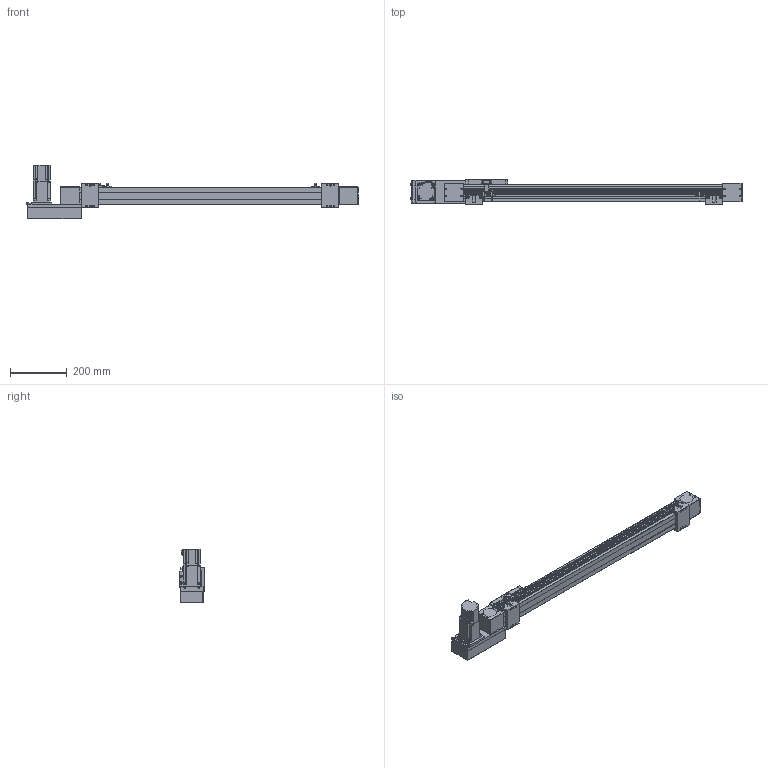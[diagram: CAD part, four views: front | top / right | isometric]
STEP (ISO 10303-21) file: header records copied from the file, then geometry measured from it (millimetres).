
FILE_DESCRIPTION(/* description */ ('STEP AP214'),/* implementation_level */ '2;1');
FILE_NAME(/* name */ 'SK60-P13-S750-L-T40-C1-N(0)',/* time_stamp */ '2023-04-06T04:04:20+02:00',/* author */ ('License CC BY-ND 4.0'),/* organization */ ('CADENAS'),/* preprocessor_version */ 'ST-DEVELOPER v19.3',/* originating_system */ 'PARTsolutions',/* authorisation */ ' ');
FILE_SCHEMA (('AUTOMOTIVE_DESIGN {1 0 10303 214 3 1 1}'));
Length unit declared in the file: millimetre
Products named in the file (10): SK60-P13-S750-L-T40-C1-N(0); PSC140-sensor; SK60-S450_seat; SK60-S450-BL-C1_slider; SK60_body3; SK60_body6; SK60-BL_body2; T40-p1; SK60-L_fb; SK60-S750-L-C1_body
Assembly tree (16 placements, depth 2):
  SK60-P13-S750-L-T40-C1-N(0)
    PSC140-sensor  x3
    SK60-S450_seat  x2
    SK60-S450-BL-C1_slider
    SK60_body3  x3
    SK60_body6  x2
    SK60-BL_body2  x2
    T40-p1
    SK60-L_fb
    SK60-S750-L-C1_body
Bounding box: 1170.5 x 90 x 189.7 mm (x, y, z)
Volume: 4780641.4 mm3; surface area: 613511.2 mm2
Topology: 16 solids, 16 shells, 810 faces, 2048 edges, 1349 vertices
Faces by surface type: plane 524, cylinder 262, cone 22, torus 2
Full cylindrical faces by diameter (mm): 2.8 x3, 3.3 x4, 4 x2, 4.5 x30, 4.6 x3, 4.917 x16, 5 x6, 5.478 x4, 5.5 x19, 6.5 x4, 7 x2, 8 x4, 8.5 x4, 9.988 x4, 10 x8, 14 x1, 47 x3, 50 x2
Entity records: 18655 total; most frequent: DIRECTION 3184, CARTESIAN_POINT 3150, ORIENTED_EDGE 2940, EDGE_CURVE 1470, AXIS2_PLACEMENT_3D 1068, LINE 1048, VECTOR 1048, VERTEX_POINT 1034
